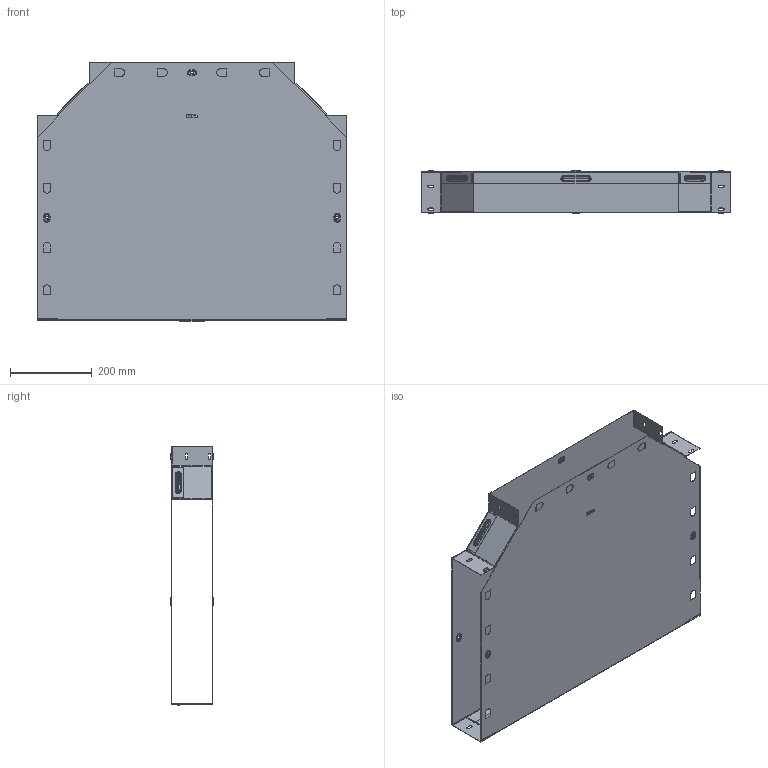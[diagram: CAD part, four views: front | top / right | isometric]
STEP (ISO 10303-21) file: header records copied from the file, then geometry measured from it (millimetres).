
FILE_DESCRIPTION (( 'STEP AP214' ), '1' );
FILE_NAME ('t10050008_捘.STEP', '2019-06-10T08:07:55', ( '砐錪賧瘔蠈錪 Windows' ), ( '' ), 'SwSTEP 2.0', 'SolidWorks 2018', '' );
FILE_SCHEMA (( 'AUTOMOTIVE_DESIGN' ));
Length unit declared in the file: millimetre
Products named in the file (1): t10050008_捘
Bounding box: 756.4 x 103.8 x 631 mm (x, y, z)
Volume: 820019.3 mm3; surface area: 2057428.2 mm2
Topology: 2 solids, 2 shells, 832 faces, 2436 edges, 1588 vertices
Faces by surface type: plane 478, cylinder 240, torus 96, bspline 18
Entity records: 28765 total; most frequent: CARTESIAN_POINT 5937, ORIENTED_EDGE 4872, DIRECTION 4654, EDGE_CURVE 2436, VECTOR 1776, LINE 1776, VERTEX_POINT 1588, AXIS2_PLACEMENT_3D 1439
